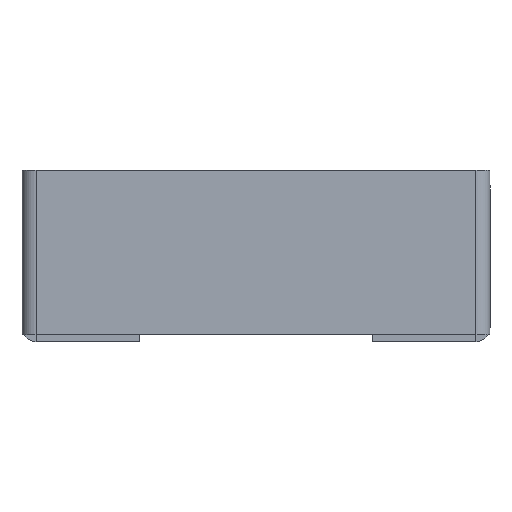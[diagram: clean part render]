
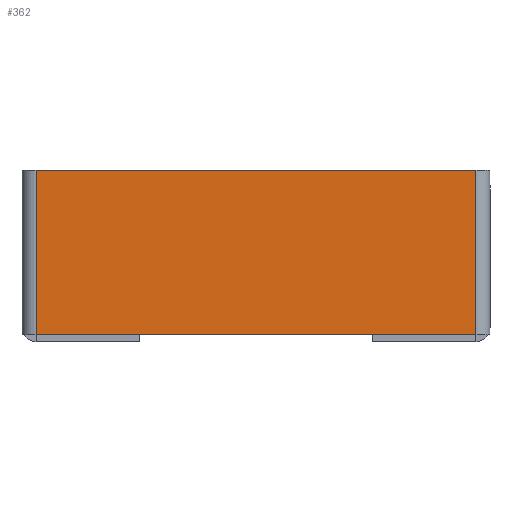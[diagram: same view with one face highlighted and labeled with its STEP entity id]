
A CAD part, front view. The second image highlights one B-rep face of the part: STEP entity #362.
In plain terms, the highlighted planar face has unit normal (0, -1, 0).
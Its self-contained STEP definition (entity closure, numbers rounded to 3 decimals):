
#362 = ADVANCED_FACE ( 'NONE', ( #8255 ), #3009, .F. ) ;
#541 = EDGE_CURVE ( 'NONE', #7386, #5782, #5344, .T. ) ;
#792 = DIRECTION ( 'NONE',  ( 0., 0., 1. ) ) ;
#1107 = EDGE_LOOP ( 'NONE', ( #6259, #6687, #6612, #2970 ) ) ;
#2169 = VECTOR ( 'NONE', #4731, 1000. ) ;
#2248 = DIRECTION ( 'NONE',  ( 0., 1., 0. ) ) ;
#2280 = DIRECTION ( 'NONE',  ( 0., 0., 1. ) ) ;
#2970 = ORIENTED_EDGE ( 'NONE', *, *, #541, .F. ) ;
#3009 = PLANE ( 'NONE',  #4387 ) ;
#3084 = EDGE_CURVE ( 'NONE', #7386, #8518, #7091, .T. ) ;
#3338 = VECTOR ( 'NONE', #5462, 1000. ) ;
#3538 = VECTOR ( 'NONE', #2280, 1000. ) ;
#3887 = CARTESIAN_POINT ( 'NONE',  ( 77.5, -2.5, -58. ) ) ;
#3900 = LINE ( 'NONE', #9183, #9397 ) ;
#4018 = CARTESIAN_POINT ( 'NONE',  ( 77.5, -2.5, 0. ) ) ;
#4387 = AXIS2_PLACEMENT_3D ( 'NONE', #6772, #2248, #792 ) ;
#4731 = DIRECTION ( 'NONE',  ( 0., 0., -1. ) ) ;
#5344 = LINE ( 'NONE', #5362, #3338 ) ;
#5362 = CARTESIAN_POINT ( 'NONE',  ( -80., -2.5, 0. ) ) ;
#5462 = DIRECTION ( 'NONE',  ( 1., 0., 0. ) ) ;
#5646 = EDGE_CURVE ( 'NONE', #8768, #8518, #3900, .T. ) ;
#5678 = CARTESIAN_POINT ( 'NONE',  ( -77.5, -2.5, 0. ) ) ;
#5782 = VERTEX_POINT ( 'NONE', #4018 ) ;
#6121 = EDGE_CURVE ( 'NONE', #8768, #5782, #8555, .T. ) ;
#6148 = DIRECTION ( 'NONE',  ( -1., 0., 0. ) ) ;
#6259 = ORIENTED_EDGE ( 'NONE', *, *, #3084, .T. ) ;
#6612 = ORIENTED_EDGE ( 'NONE', *, *, #6121, .T. ) ;
#6687 = ORIENTED_EDGE ( 'NONE', *, *, #5646, .F. ) ;
#6772 = CARTESIAN_POINT ( 'NONE',  ( 0., -2.5, 0. ) ) ;
#7091 = LINE ( 'NONE', #9388, #2169 ) ;
#7386 = VERTEX_POINT ( 'NONE', #5678 ) ;
#7960 = CARTESIAN_POINT ( 'NONE',  ( 77.5, -2.5, -58. ) ) ;
#8255 = FACE_OUTER_BOUND ( 'NONE', #1107, .T. ) ;
#8518 = VERTEX_POINT ( 'NONE', #9139 ) ;
#8555 = LINE ( 'NONE', #3887, #3538 ) ;
#8768 = VERTEX_POINT ( 'NONE', #7960 ) ;
#9139 = CARTESIAN_POINT ( 'NONE',  ( -77.5, -2.5, -58. ) ) ;
#9183 = CARTESIAN_POINT ( 'NONE',  ( -80., -2.5, -58. ) ) ;
#9388 = CARTESIAN_POINT ( 'NONE',  ( -77.5, -2.5, 0. ) ) ;
#9397 = VECTOR ( 'NONE', #6148, 1000. ) ;
